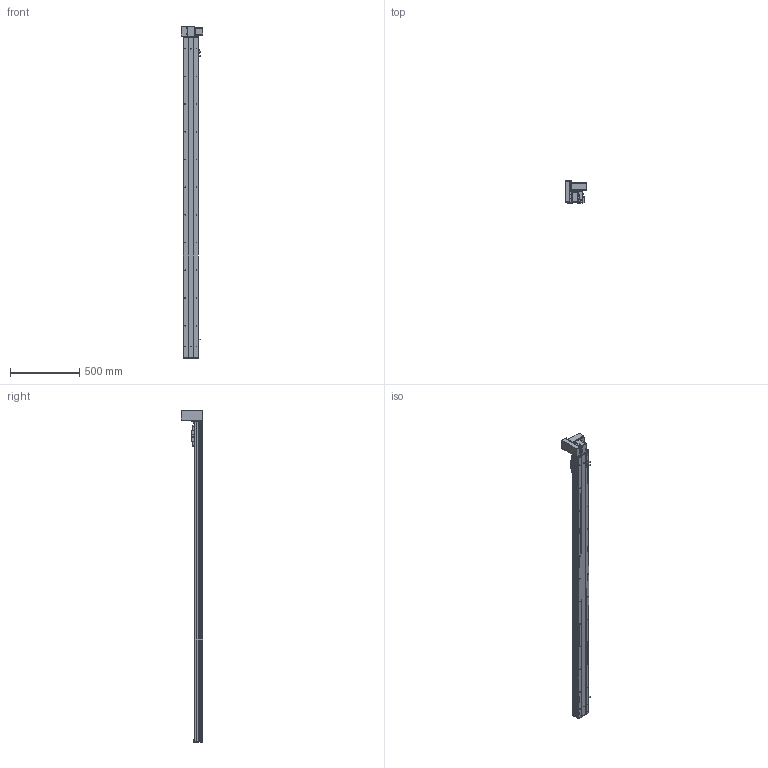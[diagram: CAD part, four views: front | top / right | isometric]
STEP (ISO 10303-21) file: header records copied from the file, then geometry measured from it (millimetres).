
FILE_DESCRIPTION (( 'STEP AP203' ), '1' );
FILE_NAME ('Y10CB-D90-S2050-UL-P400W.STEP', '2020-02-16T08:11:06', ( '微软用户' ), ( '微软中国' ), 'SwSTEP 2.0', 'SolidWorks 2017', '' );
FILE_SCHEMA (( 'CONFIG_CONTROL_DESIGN' ));
Length unit declared in the file: millimetre
Products named in the file (18): 10CB9-掛极; Y100-135俋离換覜ん--; Y10B-々湍喘謫眊楊擘啣--; 10CB-耜裔; Y10B-耜蚾蟀諉啣----; 0B-萇儂楊擘啣; 00B-俋欶BM--; san松下电机400不带刹车----; Y10B--々湍喘謫眊--666; 0B-源倛裔啣; Y10CB-D90-S2050-UL-P400W; 0B-埴倛裔啣; 10CB-詩湍-; Y10CB- 掛极耜裔啣-毀---; 0CB-雄赽釱---; Y10C---詩湍揤啣; Y135C-陔俋离換覜結え-; 0Cb-俋欶---
Assembly tree (21 placements, depth 2):
  Y10CB-D90-S2050-UL-P400W
    0CB-雄赽釱---
    0Cb-俋欶---
    Y10B-々湍喘謫眊楊擘啣--
    0B-萇儂楊擘啣
    san松下电机400不带刹车----
    0B-源倛裔啣
    0B-埴倛裔啣
    10CB-詩湍-
    Y10CB- 掛极耜裔啣-毀---  x2
    Y10C---詩湍揤啣  x2
    10CB9-掛极
    10CB-耜裔
    Y135C-陔俋离換覜結え-
    Y100-135俋离換覜ん--  x3
    Y10B-耜蚾蟀諉啣----
    00B-俋欶BM--
    Y10B--々湍喘謫眊--666
Bounding box: 157 x 155.5 x 2396 mm (x, y, z)
Volume: 4968194.1 mm3; surface area: 2335903.3 mm2
Topology: 21 solids, 21 shells, 1050 faces, 2843 edges, 1850 vertices
Faces by surface type: cylinder 539, plane 487, cone 24
Entity records: 33412 total; most frequent: CARTESIAN_POINT 6209, DIRECTION 5338, ORIENTED_EDGE 5156, EDGE_CURVE 2578, AXIS2_PLACEMENT_3D 1909, VERTEX_POINT 1676, VECTOR 1520, LINE 1520
